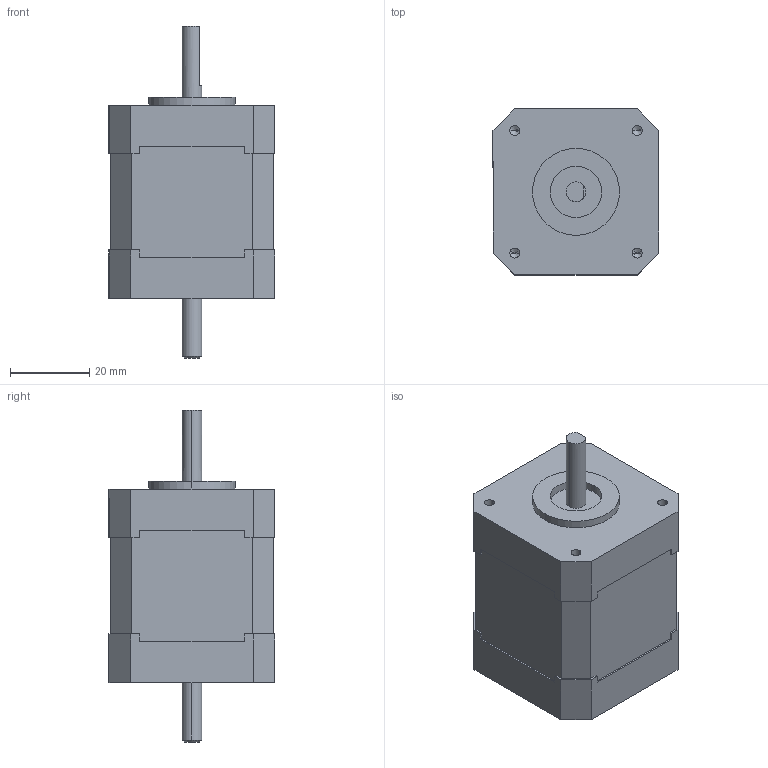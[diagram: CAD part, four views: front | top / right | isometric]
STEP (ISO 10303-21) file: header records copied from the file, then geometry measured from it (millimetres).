
FILE_DESCRIPTION (( 'STEP AP214' ), '1' );
FILE_NAME ('TS3617N603.STEP', '2016-09-08T08:30:25', ( 'hoho' ), ( '' ), 'SwSTEP 2.0', 'SolidWorks 2013', '' );
FILE_SCHEMA (( 'AUTOMOTIVE_DESIGN' ));
Length unit declared in the file: millimetre
Products named in the file (1): TS3617N603
Bounding box: 42 x 42 x 84 mm (x, y, z)
Volume: 82482.5 mm3; surface area: 12001.4 mm2
Topology: 1 solids, 1 shells, 90 faces, 242 edges, 154 vertices
Faces by surface type: plane 64, cylinder 16, cone 10
Entity records: 2936 total; most frequent: CARTESIAN_POINT 479, ORIENTED_EDGE 468, DIRECTION 452, EDGE_CURVE 234, LINE 198, VECTOR 198, VERTEX_POINT 154, AXIS2_PLACEMENT_3D 127
